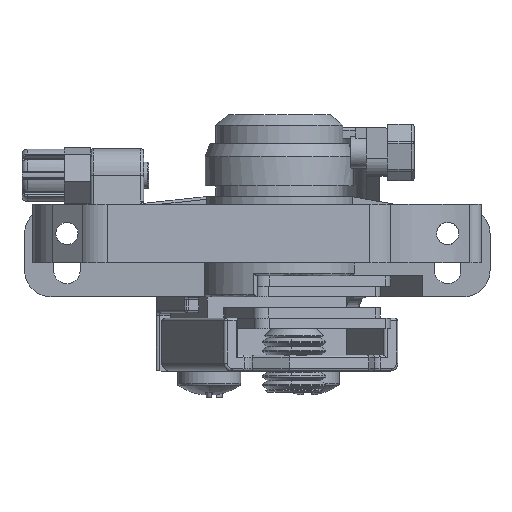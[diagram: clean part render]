
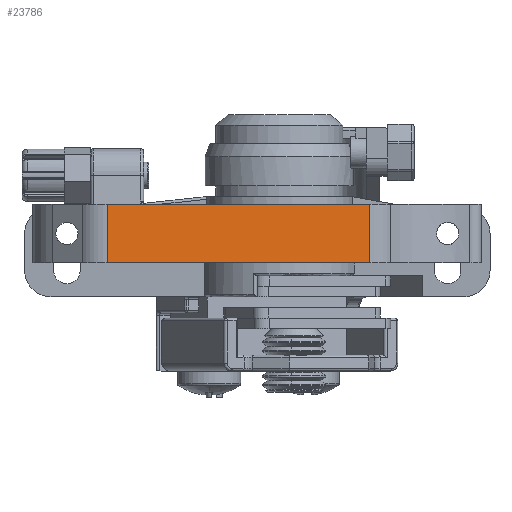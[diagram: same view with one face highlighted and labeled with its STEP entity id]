
A CAD part, front view. The second image highlights one B-rep face of the part: STEP entity #23786.
In plain terms, the highlighted planar face has unit normal (0.119, -0.993, 0) as drawn and (0, -1, 0) by its records, which use the part's own axes.
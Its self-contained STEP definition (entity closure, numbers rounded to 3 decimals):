
#618 = EDGE_CURVE ( 'NONE', #32596, #17994, #25281, .T. ) ;
#1288 = LINE ( 'NONE', #39489, #27601 ) ;
#2180 = ORIENTED_EDGE ( 'NONE', *, *, #14548, .F. ) ;
#3294 = VERTEX_POINT ( 'NONE', #44124 ) ;
#3801 = CARTESIAN_POINT ( 'NONE',  ( 0., 0., 11. ) ) ;
#4013 = DIRECTION ( 'NONE',  ( 0., 0., -1. ) ) ;
#5352 = AXIS2_PLACEMENT_3D ( 'NONE', #16985, #30724, #10247 ) ;
#7093 = CARTESIAN_POINT ( 'NONE',  ( 0., 0., 0. ) ) ;
#7609 = EDGE_CURVE ( 'NONE', #17773, #17994, #1288, .T. ) ;
#10247 = DIRECTION ( 'NONE',  ( 0., 0., 1. ) ) ;
#10784 = EDGE_CURVE ( 'NONE', #3294, #32596, #33864, .T. ) ;
#10799 = DIRECTION ( 'NONE',  ( 1., 0., 0. ) ) ;
#14548 = EDGE_CURVE ( 'NONE', #3294, #17773, #39360, .T. ) ;
#16985 = CARTESIAN_POINT ( 'NONE',  ( 0., 0., 11. ) ) ;
#17773 = VERTEX_POINT ( 'NONE', #43501 ) ;
#17994 = VERTEX_POINT ( 'NONE', #21030 ) ;
#21030 = CARTESIAN_POINT ( 'NONE',  ( 50., 0., 0. ) ) ;
#23786 = ADVANCED_FACE ( 'NONE', ( #38718 ), #30574, .F. ) ;
#25281 = LINE ( 'NONE', #34668, #34424 ) ;
#27601 = VECTOR ( 'NONE', #39478, 1000. ) ;
#27804 = CARTESIAN_POINT ( 'NONE',  ( 0., 0., 11. ) ) ;
#28027 = VECTOR ( 'NONE', #10799, 1000. ) ;
#30574 = PLANE ( 'NONE',  #5352 ) ;
#30724 = DIRECTION ( 'NONE',  ( 0., 1., 0. ) ) ;
#32596 = VERTEX_POINT ( 'NONE', #7093 ) ;
#33864 = LINE ( 'NONE', #3801, #43069 ) ;
#34424 = VECTOR ( 'NONE', #34504, 1000. ) ;
#34504 = DIRECTION ( 'NONE',  ( 1., 0., 0. ) ) ;
#34506 = ORIENTED_EDGE ( 'NONE', *, *, #7609, .F. ) ;
#34668 = CARTESIAN_POINT ( 'NONE',  ( 0., 0., 0. ) ) ;
#35002 = EDGE_LOOP ( 'NONE', ( #42666, #34506, #2180, #44330 ) ) ;
#38718 = FACE_OUTER_BOUND ( 'NONE', #35002, .T. ) ;
#39360 = LINE ( 'NONE', #27804, #28027 ) ;
#39478 = DIRECTION ( 'NONE',  ( 0., 0., -1. ) ) ;
#39489 = CARTESIAN_POINT ( 'NONE',  ( 50., 0., 11. ) ) ;
#42666 = ORIENTED_EDGE ( 'NONE', *, *, #618, .T. ) ;
#43069 = VECTOR ( 'NONE', #4013, 1000. ) ;
#43501 = CARTESIAN_POINT ( 'NONE',  ( 50., 0., 11. ) ) ;
#44124 = CARTESIAN_POINT ( 'NONE',  ( 0., 0., 11. ) ) ;
#44330 = ORIENTED_EDGE ( 'NONE', *, *, #10784, .T. ) ;
